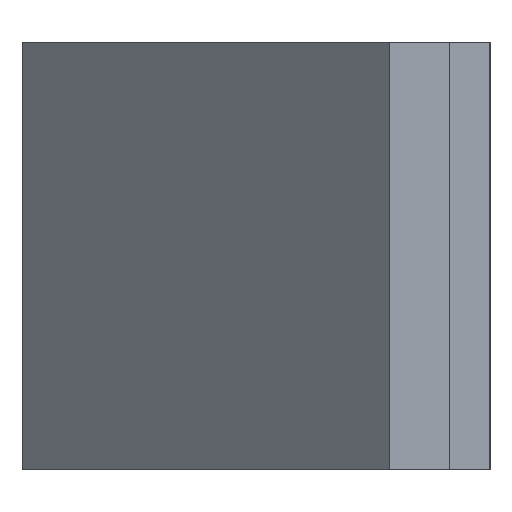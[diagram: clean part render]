
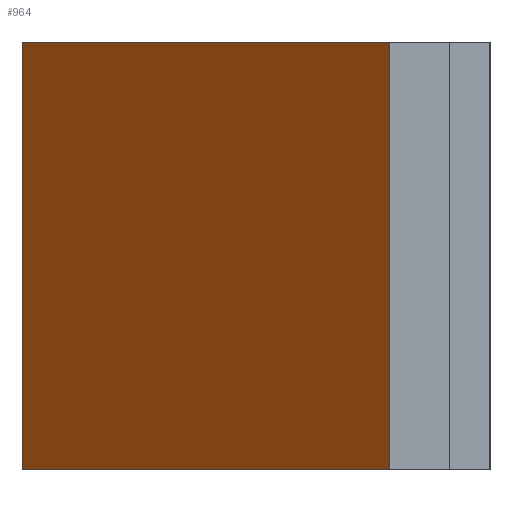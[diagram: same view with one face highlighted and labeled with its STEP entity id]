
A CAD part, left-side view. The second image highlights one B-rep face of the part: STEP entity #964.
In plain terms, the highlighted planar face has unit normal (-0.707, 0.707, 0).
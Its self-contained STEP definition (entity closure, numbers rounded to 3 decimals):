
#3 = CARTESIAN_POINT ( 'NONE',  ( 10.5, 16., -16. ) ) ;
#21 = CARTESIAN_POINT ( 'NONE',  ( 10.5, 16., -16. ) ) ;
#23 = CARTESIAN_POINT ( 'NONE',  ( 10.5, 16., 16. ) ) ;
#32 = VERTEX_POINT ( 'NONE', #649 ) ;
#86 = DIRECTION ( 'NONE',  ( -0.707, 0.707, 0. ) ) ;
#123 = ORIENTED_EDGE ( 'NONE', *, *, #1224, .F. ) ;
#194 = CARTESIAN_POINT ( 'NONE',  ( -17., -11.5, -16. ) ) ;
#235 = VECTOR ( 'NONE', #435, 1000. ) ;
#236 = EDGE_CURVE ( 'NONE', #542, #513, #919, .T. ) ;
#244 = EDGE_LOOP ( 'NONE', ( #504, #970, #123, #510 ) ) ;
#262 = EDGE_CURVE ( 'NONE', #513, #32, #892, .T. ) ;
#331 = VERTEX_POINT ( 'NONE', #23 ) ;
#372 = CARTESIAN_POINT ( 'NONE',  ( -17., -11.5, 16. ) ) ;
#435 = DIRECTION ( 'NONE',  ( 0., 0., 1. ) ) ;
#471 = AXIS2_PLACEMENT_3D ( 'NONE', #644, #86, #736 ) ;
#496 = CARTESIAN_POINT ( 'NONE',  ( -17., -11.5, -16. ) ) ;
#504 = ORIENTED_EDGE ( 'NONE', *, *, #262, .T. ) ;
#510 = ORIENTED_EDGE ( 'NONE', *, *, #236, .T. ) ;
#513 = VERTEX_POINT ( 'NONE', #496 ) ;
#536 = CARTESIAN_POINT ( 'NONE',  ( -17., -11.5, -16. ) ) ;
#542 = VERTEX_POINT ( 'NONE', #3 ) ;
#565 = DIRECTION ( 'NONE',  ( -0.707, -0.707, 0. ) ) ;
#642 = VECTOR ( 'NONE', #957, 1000. ) ;
#644 = CARTESIAN_POINT ( 'NONE',  ( -17., -11.5, -16. ) ) ;
#649 = CARTESIAN_POINT ( 'NONE',  ( -17., -11.5, 16. ) ) ;
#663 = DIRECTION ( 'NONE',  ( -0.707, -0.707, 0. ) ) ;
#672 = VECTOR ( 'NONE', #663, 1000. ) ;
#733 = LINE ( 'NONE', #21, #235 ) ;
#736 = DIRECTION ( 'NONE',  ( -0.707, -0.707, 0. ) ) ;
#751 = VECTOR ( 'NONE', #565, 1000. ) ;
#891 = EDGE_CURVE ( 'NONE', #331, #32, #1015, .T. ) ;
#892 = LINE ( 'NONE', #194, #642 ) ;
#919 = LINE ( 'NONE', #536, #672 ) ;
#957 = DIRECTION ( 'NONE',  ( 0., 0., 1. ) ) ;
#964 = ADVANCED_FACE ( 'NONE', ( #1144 ), #1034, .T. ) ;
#970 = ORIENTED_EDGE ( 'NONE', *, *, #891, .F. ) ;
#1015 = LINE ( 'NONE', #372, #751 ) ;
#1034 = PLANE ( 'NONE',  #471 ) ;
#1144 = FACE_OUTER_BOUND ( 'NONE', #244, .T. ) ;
#1224 = EDGE_CURVE ( 'NONE', #542, #331, #733, .T. ) ;
